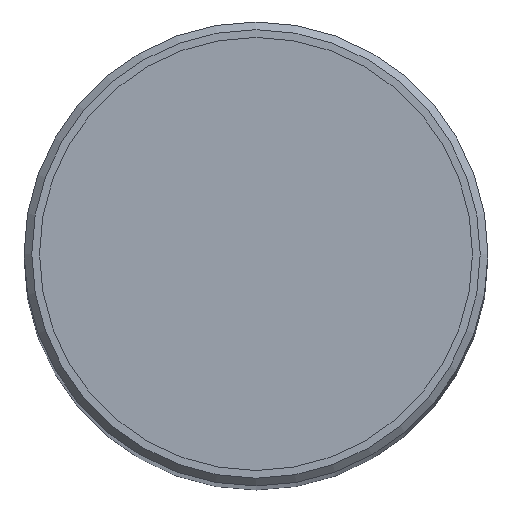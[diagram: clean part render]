
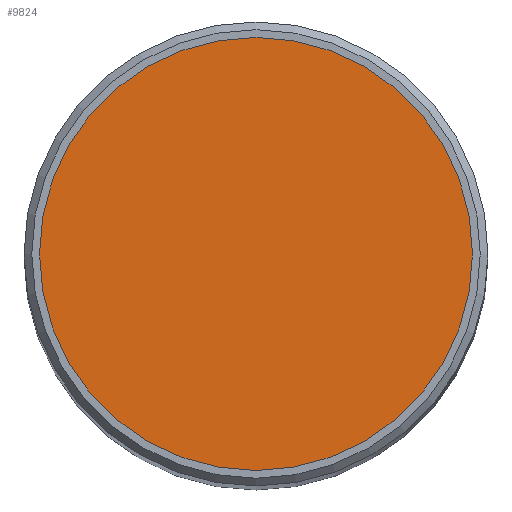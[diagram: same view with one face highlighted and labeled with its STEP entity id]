
A CAD part, top view. The second image highlights one B-rep face of the part: STEP entity #9824.
In plain terms, the highlighted planar face has unit normal (0, 0, 1) as drawn and (-1, 0, 0) by its records, which use the part's own axes.
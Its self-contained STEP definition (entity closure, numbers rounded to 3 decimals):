
#2466=PLANE('',#10978);
#3098=FACE_OUTER_BOUND('',#3730,.T.);
#3730=EDGE_LOOP('',(#9243));
#4106=CIRCLE('',#10977,5.6);
#5065=VERTEX_POINT('',#18987);
#6458=EDGE_CURVE('',#5065,#5065,#4106,.T.);
#9243=ORIENTED_EDGE('',*,*,#6458,.T.);
#9824=ADVANCED_FACE('',(#3098),#2466,.F.);
#10977=AXIS2_PLACEMENT_3D('',#18988,#13718,#13719);
#10978=AXIS2_PLACEMENT_3D('',#18989,#13720,#13721);
#13718=DIRECTION('center_axis',(-1.,0.,0.));
#13719=DIRECTION('ref_axis',(0.,-1.,0.));
#13720=DIRECTION('center_axis',(1.,0.,0.));
#13721=DIRECTION('ref_axis',(0.,0.,-1.));
#18987=CARTESIAN_POINT('',(0.,5.6,0.));
#18988=CARTESIAN_POINT('Origin',(0.,0.,0.));
#18989=CARTESIAN_POINT('Origin',(0.,0.,0.));
